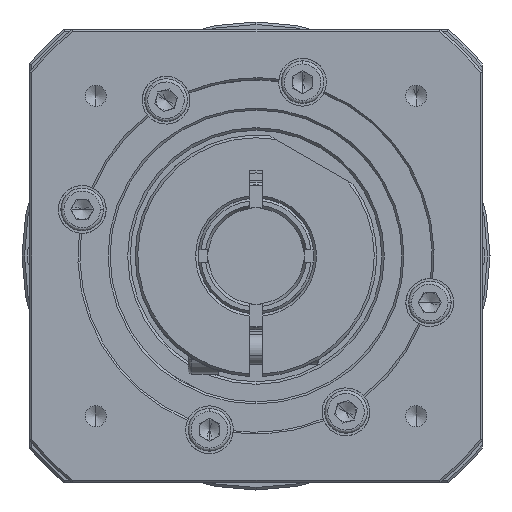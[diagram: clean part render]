
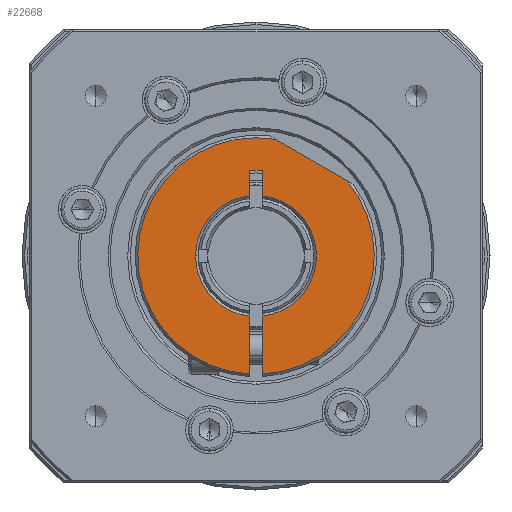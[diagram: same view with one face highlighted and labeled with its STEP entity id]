
A CAD part, left-side view. The second image highlights one B-rep face of the part: STEP entity #22668.
In plain terms, the highlighted planar face has unit normal (-1, 0, 0) as drawn and (1, 0, 0) by its records, which use the part's own axes.
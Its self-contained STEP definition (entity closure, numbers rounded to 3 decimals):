
#217 = LINE ( 'NONE', #20552, #23484 ) ;
#823 = AXIS2_PLACEMENT_3D ( 'NONE', #24634, #15826, #27172 ) ;
#1335 = LINE ( 'NONE', #12228, #15410 ) ;
#2159 = ORIENTED_EDGE ( 'NONE', *, *, #2955, .T. ) ;
#2205 = VERTEX_POINT ( 'NONE', #11710 ) ;
#2562 = ORIENTED_EDGE ( 'NONE', *, *, #25974, .T. ) ;
#2955 = EDGE_CURVE ( 'NONE', #24157, #26512, #1335, .T. ) ;
#4675 = VECTOR ( 'NONE', #16596, 1000. ) ;
#5639 = CARTESIAN_POINT ( 'NONE',  ( 6.5, -1.25, 34.492 ) ) ;
#6079 = EDGE_CURVE ( 'NONE', #19911, #15244, #6518, .T. ) ;
#6161 = VERTEX_POINT ( 'NONE', #24055 ) ;
#6433 = ORIENTED_EDGE ( 'NONE', *, *, #12596, .T. ) ;
#6518 = CIRCLE ( 'NONE', #15944, 23.5 ) ;
#6588 = CIRCLE ( 'NONE', #6927, 12. ) ;
#6715 = DIRECTION ( 'NONE',  ( 0., -1., 0. ) ) ;
#6725 = CIRCLE ( 'NONE', #15654, 23.5 ) ;
#6726 = CARTESIAN_POINT ( 'NONE',  ( 6.5, 0., 0. ) ) ;
#6927 = AXIS2_PLACEMENT_3D ( 'NONE', #6726, #11571, #13616 ) ;
#7228 = DIRECTION ( 'NONE',  ( 0., 1., 0. ) ) ;
#7709 = CARTESIAN_POINT ( 'NONE',  ( 6.5, -1.25, -17. ) ) ;
#7867 = CARTESIAN_POINT ( 'NONE',  ( 6.5, 0., 0. ) ) ;
#8029 = CARTESIAN_POINT ( 'NONE',  ( 6.5, -2.693, -23.848 ) ) ;
#8135 = EDGE_CURVE ( 'NONE', #18317, #2205, #11554, .T. ) ;
#8291 = CARTESIAN_POINT ( 'NONE',  ( 6.5, 1.25, -17. ) ) ;
#8355 = DIRECTION ( 'NONE',  ( 1., 0., 0. ) ) ;
#9003 = LINE ( 'NONE', #8029, #16392 ) ;
#9076 = CARTESIAN_POINT ( 'NONE',  ( 6.5, 1.25, -17. ) ) ;
#9732 = EDGE_LOOP ( 'NONE', ( #2562, #25875, #23614, #18720, #16399, #19970, #17314, #2159, #6433, #9875, #17052 ) ) ;
#9875 = ORIENTED_EDGE ( 'NONE', *, *, #26396, .T. ) ;
#9903 = CARTESIAN_POINT ( 'NONE',  ( 6.5, 1.25, 34.492 ) ) ;
#10032 = CARTESIAN_POINT ( 'NONE',  ( 6.5, 1.25, 23.467 ) ) ;
#10122 = DIRECTION ( 'NONE',  ( 0., 0., 1. ) ) ;
#10409 = EDGE_CURVE ( 'NONE', #2205, #13376, #217, .T. ) ;
#10504 = VECTOR ( 'NONE', #6715, 1000. ) ;
#10578 = DIRECTION ( 'NONE',  ( 0., 0.866, -0.5 ) ) ;
#11178 = CARTESIAN_POINT ( 'NONE',  ( 6.5, 12., 0. ) ) ;
#11554 = CIRCLE ( 'NONE', #823, 12. ) ;
#11571 = DIRECTION ( 'NONE',  ( -1., 0., 0. ) ) ;
#11710 = CARTESIAN_POINT ( 'NONE',  ( 6.5, 1.25, -11.935 ) ) ;
#11991 = EDGE_CURVE ( 'NONE', #13376, #24157, #13300, .T. ) ;
#12228 = CARTESIAN_POINT ( 'NONE',  ( 6.5, -1.25, 34.492 ) ) ;
#12522 = LINE ( 'NONE', #5639, #24191 ) ;
#12596 = EDGE_CURVE ( 'NONE', #26512, #20081, #20709, .T. ) ;
#12874 = AXIS2_PLACEMENT_3D ( 'NONE', #15243, #15527, #22403 ) ;
#12959 = PLANE ( 'NONE',  #12874 ) ;
#13300 = LINE ( 'NONE', #9076, #10504 ) ;
#13376 = VERTEX_POINT ( 'NONE', #8291 ) ;
#13616 = DIRECTION ( 'NONE',  ( 0., 1., 0. ) ) ;
#14000 = EDGE_CURVE ( 'NONE', #22029, #26965, #6725, .T. ) ;
#14004 = CARTESIAN_POINT ( 'NONE',  ( 6.5, -1.25, 11.935 ) ) ;
#14390 = DIRECTION ( 'NONE',  ( 0., 0., 1. ) ) ;
#15078 = CARTESIAN_POINT ( 'NONE',  ( 6.5, -1.25, -11.935 ) ) ;
#15180 = CARTESIAN_POINT ( 'NONE',  ( 6.5, -3.845, -23.183 ) ) ;
#15243 = CARTESIAN_POINT ( 'NONE',  ( 6.5, 0., 0. ) ) ;
#15244 = VERTEX_POINT ( 'NONE', #26786 ) ;
#15410 = VECTOR ( 'NONE', #14390, 1000. ) ;
#15527 = DIRECTION ( 'NONE',  ( 1., 0., 0. ) ) ;
#15654 = AXIS2_PLACEMENT_3D ( 'NONE', #28246, #8355, #21611 ) ;
#15826 = DIRECTION ( 'NONE',  ( -1., 0., 0. ) ) ;
#15944 = AXIS2_PLACEMENT_3D ( 'NONE', #7867, #23668, #10122 ) ;
#16392 = VECTOR ( 'NONE', #10578, 1000. ) ;
#16399 = ORIENTED_EDGE ( 'NONE', *, *, #8135, .T. ) ;
#16596 = DIRECTION ( 'NONE',  ( 0., 0., -1. ) ) ;
#17052 = ORIENTED_EDGE ( 'NONE', *, *, #6079, .T. ) ;
#17314 = ORIENTED_EDGE ( 'NONE', *, *, #11991, .T. ) ;
#17837 = EDGE_CURVE ( 'NONE', #26965, #6161, #24818, .T. ) ;
#18272 = CARTESIAN_POINT ( 'NONE',  ( 6.5, 0., 0. ) ) ;
#18317 = VERTEX_POINT ( 'NONE', #11178 ) ;
#18720 = ORIENTED_EDGE ( 'NONE', *, *, #19978, .T. ) ;
#19911 = VERTEX_POINT ( 'NONE', #20681 ) ;
#19970 = ORIENTED_EDGE ( 'NONE', *, *, #10409, .T. ) ;
#19978 = EDGE_CURVE ( 'NONE', #6161, #18317, #6588, .T. ) ;
#20081 = VERTEX_POINT ( 'NONE', #14004 ) ;
#20552 = CARTESIAN_POINT ( 'NONE',  ( 6.5, 1.25, 34.492 ) ) ;
#20681 = CARTESIAN_POINT ( 'NONE',  ( 6.5, -1.25, 23.467 ) ) ;
#20709 = CIRCLE ( 'NONE', #25989, 12. ) ;
#20790 = DIRECTION ( 'NONE',  ( -1., 0., 0. ) ) ;
#21256 = DIRECTION ( 'NONE',  ( 0., 0., -1. ) ) ;
#21611 = DIRECTION ( 'NONE',  ( 0., 0., 1. ) ) ;
#22029 = VERTEX_POINT ( 'NONE', #15180 ) ;
#22403 = DIRECTION ( 'NONE',  ( 0., 0., -1. ) ) ;
#22668 = ADVANCED_FACE ( 'NONE', ( #28671 ), #12959, .T. ) ;
#23484 = VECTOR ( 'NONE', #21256, 1000. ) ;
#23614 = ORIENTED_EDGE ( 'NONE', *, *, #17837, .T. ) ;
#23668 = DIRECTION ( 'NONE',  ( 1., 0., 0. ) ) ;
#23701 = DIRECTION ( 'NONE',  ( 0., 0., 1. ) ) ;
#24055 = CARTESIAN_POINT ( 'NONE',  ( 6.5, 1.25, 11.935 ) ) ;
#24157 = VERTEX_POINT ( 'NONE', #7709 ) ;
#24191 = VECTOR ( 'NONE', #23701, 1000. ) ;
#24634 = CARTESIAN_POINT ( 'NONE',  ( 6.5, 0., 0. ) ) ;
#24818 = LINE ( 'NONE', #9903, #4675 ) ;
#25875 = ORIENTED_EDGE ( 'NONE', *, *, #14000, .T. ) ;
#25974 = EDGE_CURVE ( 'NONE', #15244, #22029, #9003, .T. ) ;
#25989 = AXIS2_PLACEMENT_3D ( 'NONE', #18272, #20790, #7228 ) ;
#26396 = EDGE_CURVE ( 'NONE', #20081, #19911, #12522, .T. ) ;
#26512 = VERTEX_POINT ( 'NONE', #15078 ) ;
#26786 = CARTESIAN_POINT ( 'NONE',  ( 6.5, -18.155, -14.922 ) ) ;
#26965 = VERTEX_POINT ( 'NONE', #10032 ) ;
#27172 = DIRECTION ( 'NONE',  ( 0., 1., 0. ) ) ;
#28246 = CARTESIAN_POINT ( 'NONE',  ( 6.5, 0., 0. ) ) ;
#28671 = FACE_OUTER_BOUND ( 'NONE', #9732, .T. ) ;
